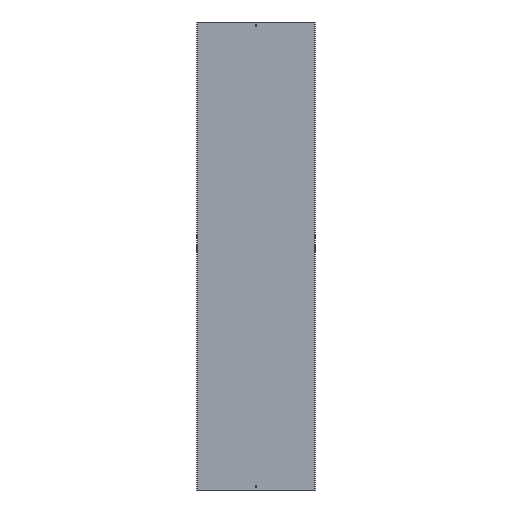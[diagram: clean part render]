
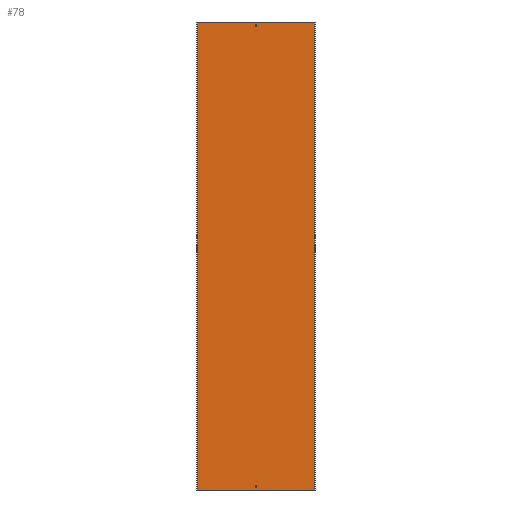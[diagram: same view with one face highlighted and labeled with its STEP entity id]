
A CAD part, front view. The second image highlights one B-rep face of the part: STEP entity #78.
In plain terms, the highlighted planar face has unit normal (0, -1, 0).
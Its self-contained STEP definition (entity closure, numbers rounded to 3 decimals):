
#2 = CARTESIAN_POINT ( 'NONE',  ( -253.5, -1.5, 1000. ) ) ;
#6 = EDGE_CURVE ( 'NONE', #349, #304, #189, .T. ) ;
#12 = CARTESIAN_POINT ( 'NONE',  ( -3.25, -1.5, 1000. ) ) ;
#19 = ORIENTED_EDGE ( 'NONE', *, *, #415, .F. ) ;
#20 = DIRECTION ( 'NONE',  ( -1., 0., 0. ) ) ;
#22 = LINE ( 'NONE', #12, #225 ) ;
#28 = DIRECTION ( 'NONE',  ( -1., 0., 0. ) ) ;
#41 = DIRECTION ( 'NONE',  ( 0., 0., 1. ) ) ;
#43 = VECTOR ( 'NONE', #55, 1000. ) ;
#52 = EDGE_CURVE ( 'NONE', #236, #304, #235, .T. ) ;
#55 = DIRECTION ( 'NONE',  ( 0., 0., -1. ) ) ;
#63 = PLANE ( 'NONE',  #361 ) ;
#66 = VECTOR ( 'NONE', #28, 1000. ) ;
#78 = ADVANCED_FACE ( 'NONE', ( #571, #517, #243 ), #63, .T. ) ;
#93 = LINE ( 'NONE', #369, #425 ) ;
#111 = CARTESIAN_POINT ( 'NONE',  ( -252., -1.5, -1000. ) ) ;
#115 = CARTESIAN_POINT ( 'NONE',  ( -253.5, -1.5, -988. ) ) ;
#124 = EDGE_CURVE ( 'NONE', #506, #138, #382, .T. ) ;
#131 = CARTESIAN_POINT ( 'NONE',  ( -253.5, -1.5, 979. ) ) ;
#138 = VERTEX_POINT ( 'NONE', #579 ) ;
#139 = CARTESIAN_POINT ( 'NONE',  ( -3.25, -1.5, -988. ) ) ;
#142 = EDGE_CURVE ( 'NONE', #260, #506, #354, .T. ) ;
#144 = CARTESIAN_POINT ( 'NONE',  ( -3.25, -1.5, 979. ) ) ;
#145 = CARTESIAN_POINT ( 'NONE',  ( -252., -1.5, 1000. ) ) ;
#160 = ORIENTED_EDGE ( 'NONE', *, *, #267, .T. ) ;
#171 = DIRECTION ( 'NONE',  ( -1., 0., 0. ) ) ;
#178 = DIRECTION ( 'NONE',  ( 0., 0., -1. ) ) ;
#184 = LINE ( 'NONE', #411, #190 ) ;
#185 = ORIENTED_EDGE ( 'NONE', *, *, #6, .T. ) ;
#189 = LINE ( 'NONE', #145, #43 ) ;
#190 = VECTOR ( 'NONE', #178, 1000. ) ;
#201 = CARTESIAN_POINT ( 'NONE',  ( -253.5, -1.5, -1000. ) ) ;
#210 = CARTESIAN_POINT ( 'NONE',  ( 252., -1.5, -1000. ) ) ;
#211 = CARTESIAN_POINT ( 'NONE',  ( -253.5, -1.5, -979. ) ) ;
#213 = VECTOR ( 'NONE', #477, 1000. ) ;
#218 = DIRECTION ( 'NONE',  ( 1., 0., 0. ) ) ;
#219 = VECTOR ( 'NONE', #364, 1000. ) ;
#225 = VECTOR ( 'NONE', #339, 1000. ) ;
#235 = LINE ( 'NONE', #201, #532 ) ;
#236 = VERTEX_POINT ( 'NONE', #210 ) ;
#243 = FACE_BOUND ( 'NONE', #387, .T. ) ;
#247 = EDGE_CURVE ( 'NONE', #511, #553, #22, .T. ) ;
#248 = VECTOR ( 'NONE', #218, 1000. ) ;
#258 = LINE ( 'NONE', #401, #66 ) ;
#259 = LINE ( 'NONE', #131, #219 ) ;
#260 = VERTEX_POINT ( 'NONE', #577 ) ;
#262 = LINE ( 'NONE', #455, #518 ) ;
#265 = ORIENTED_EDGE ( 'NONE', *, *, #444, .F. ) ;
#267 = EDGE_CURVE ( 'NONE', #138, #555, #356, .T. ) ;
#269 = VERTEX_POINT ( 'NONE', #293 ) ;
#281 = DIRECTION ( 'NONE',  ( 0., 0., -1. ) ) ;
#293 = CARTESIAN_POINT ( 'NONE',  ( 3.25, -1.5, 979. ) ) ;
#304 = VERTEX_POINT ( 'NONE', #111 ) ;
#309 = CARTESIAN_POINT ( 'NONE',  ( 252., -1.5, 1000. ) ) ;
#310 = DIRECTION ( 'NONE',  ( -1., 0., 0. ) ) ;
#312 = ORIENTED_EDGE ( 'NONE', *, *, #247, .F. ) ;
#318 = CARTESIAN_POINT ( 'NONE',  ( -252., -1.5, 1000. ) ) ;
#323 = ORIENTED_EDGE ( 'NONE', *, *, #52, .F. ) ;
#333 = VECTOR ( 'NONE', #310, 1000. ) ;
#336 = VECTOR ( 'NONE', #171, 1000. ) ;
#339 = DIRECTION ( 'NONE',  ( 0., 0., -1. ) ) ;
#349 = VERTEX_POINT ( 'NONE', #318 ) ;
#352 = EDGE_LOOP ( 'NONE', ( #323, #19, #493, #185 ) ) ;
#354 = LINE ( 'NONE', #211, #248 ) ;
#356 = LINE ( 'NONE', #115, #336 ) ;
#361 = AXIS2_PLACEMENT_3D ( 'NONE', #2, #564, #281 ) ;
#364 = DIRECTION ( 'NONE',  ( 1., 0., 0. ) ) ;
#368 = DIRECTION ( 'NONE',  ( 0., 0., 1. ) ) ;
#369 = CARTESIAN_POINT ( 'NONE',  ( -3.25, -1.5, 1000. ) ) ;
#382 = LINE ( 'NONE', #563, #213 ) ;
#386 = CARTESIAN_POINT ( 'NONE',  ( 3.25, -1.5, -979. ) ) ;
#387 = EDGE_LOOP ( 'NONE', ( #160, #468, #457, #575 ) ) ;
#393 = EDGE_CURVE ( 'NONE', #553, #269, #259, .T. ) ;
#401 = CARTESIAN_POINT ( 'NONE',  ( -253.5, -1.5, 1000. ) ) ;
#406 = CARTESIAN_POINT ( 'NONE',  ( 3.25, -1.5, 988. ) ) ;
#408 = VERTEX_POINT ( 'NONE', #406 ) ;
#411 = CARTESIAN_POINT ( 'NONE',  ( 252., -1.5, 1000. ) ) ;
#415 = EDGE_CURVE ( 'NONE', #545, #236, #184, .T. ) ;
#421 = EDGE_CURVE ( 'NONE', #408, #511, #542, .T. ) ;
#425 = VECTOR ( 'NONE', #368, 1000. ) ;
#434 = EDGE_LOOP ( 'NONE', ( #312, #552, #265, #543 ) ) ;
#439 = EDGE_CURVE ( 'NONE', #555, #260, #93, .T. ) ;
#444 = EDGE_CURVE ( 'NONE', #269, #408, #262, .T. ) ;
#455 = CARTESIAN_POINT ( 'NONE',  ( 3.25, -1.5, 1000. ) ) ;
#457 = ORIENTED_EDGE ( 'NONE', *, *, #142, .T. ) ;
#468 = ORIENTED_EDGE ( 'NONE', *, *, #439, .T. ) ;
#477 = DIRECTION ( 'NONE',  ( 0., 0., -1. ) ) ;
#493 = ORIENTED_EDGE ( 'NONE', *, *, #546, .T. ) ;
#498 = CARTESIAN_POINT ( 'NONE',  ( -253.5, -1.5, 988. ) ) ;
#506 = VERTEX_POINT ( 'NONE', #386 ) ;
#511 = VERTEX_POINT ( 'NONE', #569 ) ;
#517 = FACE_OUTER_BOUND ( 'NONE', #352, .T. ) ;
#518 = VECTOR ( 'NONE', #41, 1000. ) ;
#532 = VECTOR ( 'NONE', #20, 1000. ) ;
#542 = LINE ( 'NONE', #498, #333 ) ;
#543 = ORIENTED_EDGE ( 'NONE', *, *, #393, .F. ) ;
#545 = VERTEX_POINT ( 'NONE', #309 ) ;
#546 = EDGE_CURVE ( 'NONE', #545, #349, #258, .T. ) ;
#552 = ORIENTED_EDGE ( 'NONE', *, *, #421, .F. ) ;
#553 = VERTEX_POINT ( 'NONE', #144 ) ;
#555 = VERTEX_POINT ( 'NONE', #139 ) ;
#563 = CARTESIAN_POINT ( 'NONE',  ( 3.25, -1.5, 1000. ) ) ;
#564 = DIRECTION ( 'NONE',  ( 0., -1., 0. ) ) ;
#569 = CARTESIAN_POINT ( 'NONE',  ( -3.25, -1.5, 988. ) ) ;
#571 = FACE_BOUND ( 'NONE', #434, .T. ) ;
#575 = ORIENTED_EDGE ( 'NONE', *, *, #124, .T. ) ;
#577 = CARTESIAN_POINT ( 'NONE',  ( -3.25, -1.5, -979. ) ) ;
#579 = CARTESIAN_POINT ( 'NONE',  ( 3.25, -1.5, -988. ) ) ;
